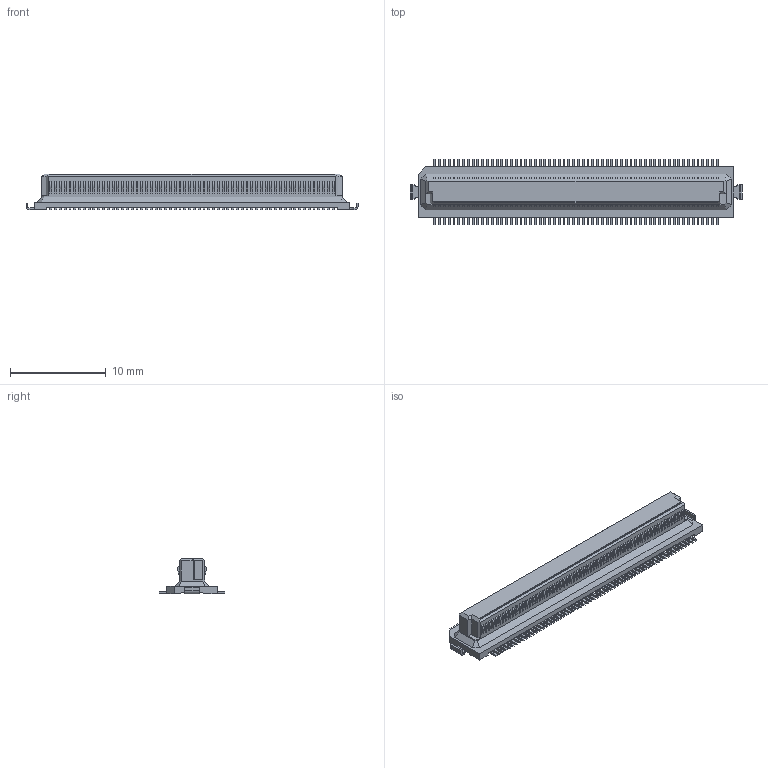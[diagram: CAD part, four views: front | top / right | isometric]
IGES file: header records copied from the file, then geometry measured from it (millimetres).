
Start section: Elysium IGES Interface
Global section: file name: 89HG:\森上\DY-3D(RE)\DY10-□□□S-1-□\修正　P39559_DY10-120S-1\修正　P39559_DY10-120S-1.igs; native system: Creo Elements/Direct Modeling 19.0F  14-Feb-2017; preprocessor: Creo Element/Direct IGES_3D V2.2; author: Unknown; organization: Unknown; date: 20200116.161550; units: millimetre
Bounding box: 34.7 x 6.8 x 3.73 mm (x, y, z)
Volume: 354.7 mm3; surface area: 737.5 mm2
Topology: 1 solids, 1 shells, 2020 faces, 5311 edges, 3534 vertices
Faces by surface type: bspline 2020
